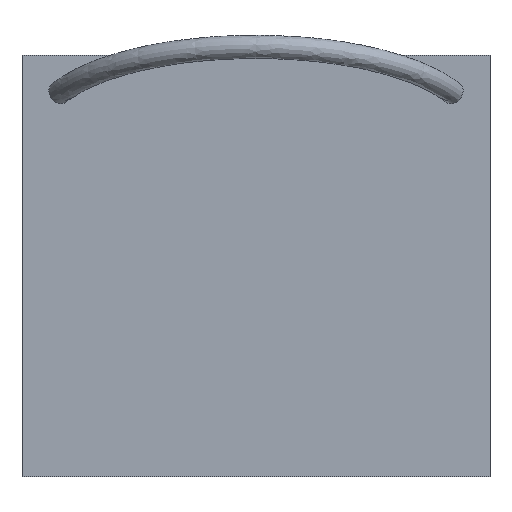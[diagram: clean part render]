
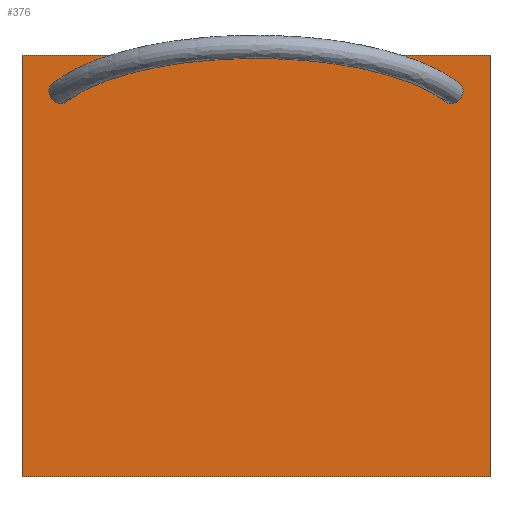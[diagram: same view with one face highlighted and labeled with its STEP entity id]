
A CAD part, top view. The second image highlights one B-rep face of the part: STEP entity #376.
In plain terms, the highlighted planar face has unit normal (0, 0, 1).
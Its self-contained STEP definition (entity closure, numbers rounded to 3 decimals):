
#62 = VERTEX_POINT('',#63);
#63 = CARTESIAN_POINT('',(-250.,-225.,450.));
#70 = PLANE('',#71);
#71 = AXIS2_PLACEMENT_3D('',#72,#73,#74);
#72 = CARTESIAN_POINT('',(-250.,-225.,420.));
#73 = DIRECTION('',(1.,0.,0.));
#74 = DIRECTION('',(0.,0.,1.));
#82 = PLANE('',#83);
#83 = AXIS2_PLACEMENT_3D('',#84,#85,#86);
#84 = CARTESIAN_POINT('',(-250.,-225.,420.));
#85 = DIRECTION('',(0.,1.,0.));
#86 = DIRECTION('',(0.,0.,1.));
#123 = VERTEX_POINT('',#124);
#124 = CARTESIAN_POINT('',(-250.,225.,450.));
#138 = PLANE('',#139);
#139 = AXIS2_PLACEMENT_3D('',#140,#141,#142);
#140 = CARTESIAN_POINT('',(-250.,225.,420.));
#141 = DIRECTION('',(0.,1.,0.));
#142 = DIRECTION('',(0.,0.,1.));
#150 = EDGE_CURVE('',#62,#123,#151,.T.);
#151 = SURFACE_CURVE('',#152,(#156,#163),.PCURVE_S1.);
#152 = LINE('',#153,#154);
#153 = CARTESIAN_POINT('',(-250.,-225.,450.));
#154 = VECTOR('',#155,1.);
#155 = DIRECTION('',(0.,1.,0.));
#156 = PCURVE('',#70,#157);
#157 = DEFINITIONAL_REPRESENTATION('',(#158),#162);
#158 = LINE('',#159,#160);
#159 = CARTESIAN_POINT('',(30.,0.));
#160 = VECTOR('',#161,1.);
#161 = DIRECTION('',(0.,-1.));
#162 = ( GEOMETRIC_REPRESENTATION_CONTEXT(2) 
PARAMETRIC_REPRESENTATION_CONTEXT() REPRESENTATION_CONTEXT('2D SPACE',''
  ) );
#163 = PCURVE('',#164,#169);
#164 = PLANE('',#165);
#165 = AXIS2_PLACEMENT_3D('',#166,#167,#168);
#166 = CARTESIAN_POINT('',(-250.,-225.,450.));
#167 = DIRECTION('',(0.,0.,1.));
#168 = DIRECTION('',(1.,0.,0.));
#169 = DEFINITIONAL_REPRESENTATION('',(#170),#174);
#170 = LINE('',#171,#172);
#171 = CARTESIAN_POINT('',(0.,0.));
#172 = VECTOR('',#173,1.);
#173 = DIRECTION('',(0.,1.));
#174 = ( GEOMETRIC_REPRESENTATION_CONTEXT(2) 
PARAMETRIC_REPRESENTATION_CONTEXT() REPRESENTATION_CONTEXT('2D SPACE',''
  ) );
#182 = VERTEX_POINT('',#183);
#183 = CARTESIAN_POINT('',(250.,-225.,450.));
#190 = PLANE('',#191);
#191 = AXIS2_PLACEMENT_3D('',#192,#193,#194);
#192 = CARTESIAN_POINT('',(250.,-225.,420.));
#193 = DIRECTION('',(1.,0.,0.));
#194 = DIRECTION('',(0.,0.,1.));
#233 = VERTEX_POINT('',#234);
#234 = CARTESIAN_POINT('',(250.,225.,450.));
#255 = EDGE_CURVE('',#182,#233,#256,.T.);
#256 = SURFACE_CURVE('',#257,(#261,#268),.PCURVE_S1.);
#257 = LINE('',#258,#259);
#258 = CARTESIAN_POINT('',(250.,-225.,450.));
#259 = VECTOR('',#260,1.);
#260 = DIRECTION('',(0.,1.,0.));
#261 = PCURVE('',#190,#262);
#262 = DEFINITIONAL_REPRESENTATION('',(#263),#267);
#263 = LINE('',#264,#265);
#264 = CARTESIAN_POINT('',(30.,0.));
#265 = VECTOR('',#266,1.);
#266 = DIRECTION('',(0.,-1.));
#267 = ( GEOMETRIC_REPRESENTATION_CONTEXT(2) 
PARAMETRIC_REPRESENTATION_CONTEXT() REPRESENTATION_CONTEXT('2D SPACE',''
  ) );
#268 = PCURVE('',#164,#269);
#269 = DEFINITIONAL_REPRESENTATION('',(#270),#274);
#270 = LINE('',#271,#272);
#271 = CARTESIAN_POINT('',(500.,0.));
#272 = VECTOR('',#273,1.);
#273 = DIRECTION('',(0.,1.));
#274 = ( GEOMETRIC_REPRESENTATION_CONTEXT(2) 
PARAMETRIC_REPRESENTATION_CONTEXT() REPRESENTATION_CONTEXT('2D SPACE',''
  ) );
#301 = EDGE_CURVE('',#62,#182,#302,.T.);
#302 = SURFACE_CURVE('',#303,(#307,#314),.PCURVE_S1.);
#303 = LINE('',#304,#305);
#304 = CARTESIAN_POINT('',(-250.,-225.,450.));
#305 = VECTOR('',#306,1.);
#306 = DIRECTION('',(1.,0.,0.));
#307 = PCURVE('',#82,#308);
#308 = DEFINITIONAL_REPRESENTATION('',(#309),#313);
#309 = LINE('',#310,#311);
#310 = CARTESIAN_POINT('',(30.,0.));
#311 = VECTOR('',#312,1.);
#312 = DIRECTION('',(0.,1.));
#313 = ( GEOMETRIC_REPRESENTATION_CONTEXT(2) 
PARAMETRIC_REPRESENTATION_CONTEXT() REPRESENTATION_CONTEXT('2D SPACE',''
  ) );
#314 = PCURVE('',#164,#315);
#315 = DEFINITIONAL_REPRESENTATION('',(#316),#320);
#316 = LINE('',#317,#318);
#317 = CARTESIAN_POINT('',(0.,0.));
#318 = VECTOR('',#319,1.);
#319 = DIRECTION('',(1.,0.));
#320 = ( GEOMETRIC_REPRESENTATION_CONTEXT(2) 
PARAMETRIC_REPRESENTATION_CONTEXT() REPRESENTATION_CONTEXT('2D SPACE',''
  ) );
#348 = EDGE_CURVE('',#123,#233,#349,.T.);
#349 = SURFACE_CURVE('',#350,(#354,#361),.PCURVE_S1.);
#350 = LINE('',#351,#352);
#351 = CARTESIAN_POINT('',(-250.,225.,450.));
#352 = VECTOR('',#353,1.);
#353 = DIRECTION('',(1.,0.,0.));
#354 = PCURVE('',#138,#355);
#355 = DEFINITIONAL_REPRESENTATION('',(#356),#360);
#356 = LINE('',#357,#358);
#357 = CARTESIAN_POINT('',(30.,0.));
#358 = VECTOR('',#359,1.);
#359 = DIRECTION('',(0.,1.));
#360 = ( GEOMETRIC_REPRESENTATION_CONTEXT(2) 
PARAMETRIC_REPRESENTATION_CONTEXT() REPRESENTATION_CONTEXT('2D SPACE',''
  ) );
#361 = PCURVE('',#164,#362);
#362 = DEFINITIONAL_REPRESENTATION('',(#363),#367);
#363 = LINE('',#364,#365);
#364 = CARTESIAN_POINT('',(0.,450.));
#365 = VECTOR('',#366,1.);
#366 = DIRECTION('',(1.,0.));
#367 = ( GEOMETRIC_REPRESENTATION_CONTEXT(2) 
PARAMETRIC_REPRESENTATION_CONTEXT() REPRESENTATION_CONTEXT('2D SPACE',''
  ) );
#376 = ADVANCED_FACE('',(#377),#164,.T.);
#377 = FACE_BOUND('',#378,.T.);
#378 = EDGE_LOOP('',(#379,#380,#381,#382));
#379 = ORIENTED_EDGE('',*,*,#150,.F.);
#380 = ORIENTED_EDGE('',*,*,#301,.T.);
#381 = ORIENTED_EDGE('',*,*,#255,.T.);
#382 = ORIENTED_EDGE('',*,*,#348,.F.);
